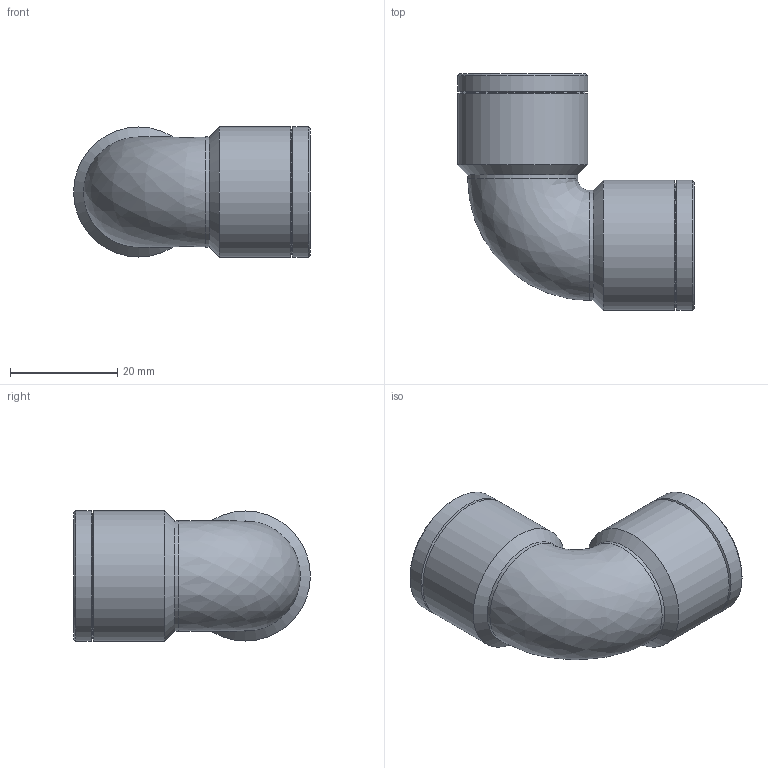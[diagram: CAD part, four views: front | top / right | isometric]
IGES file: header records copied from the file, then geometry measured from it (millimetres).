
Global section: file name: 050507005_0505070050A.ipt; native system: Autodesk Inventor 2015; preprocessor: unknown; author: KIM; date: 20170618.093211; units: millimetre
Bounding box: 44.11 x 44.11 x 24.22 mm (x, y, z)
Volume: 9244.9 mm3; surface area: 8075.2 mm2
Topology: 1 solids, 1 shells, 24 faces, 56 edges, 34 vertices
Faces by surface type: revolution 8, cone 8, cylinder 6, plane 2
Full cylindrical faces by diameter (mm): 20.494 x2, 24.22 x4
